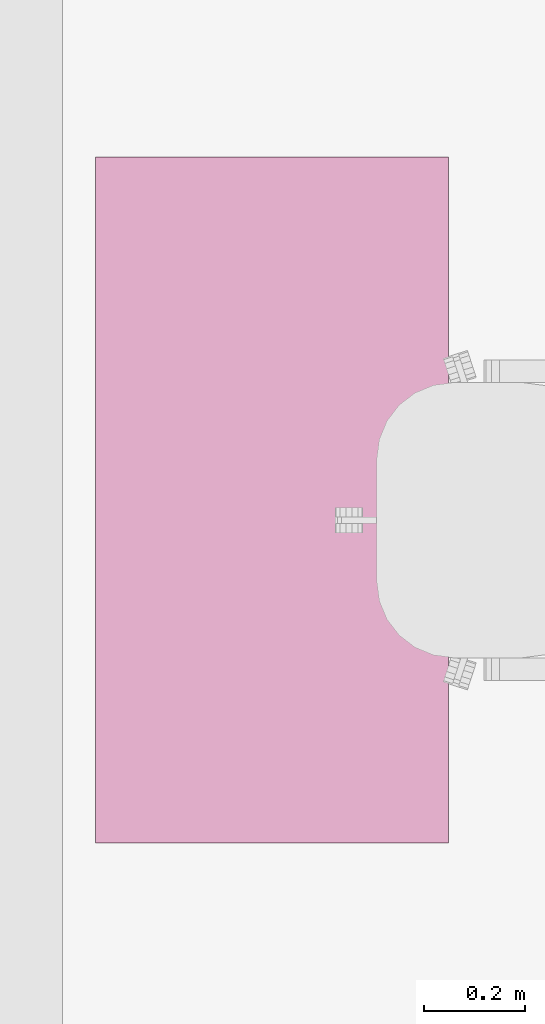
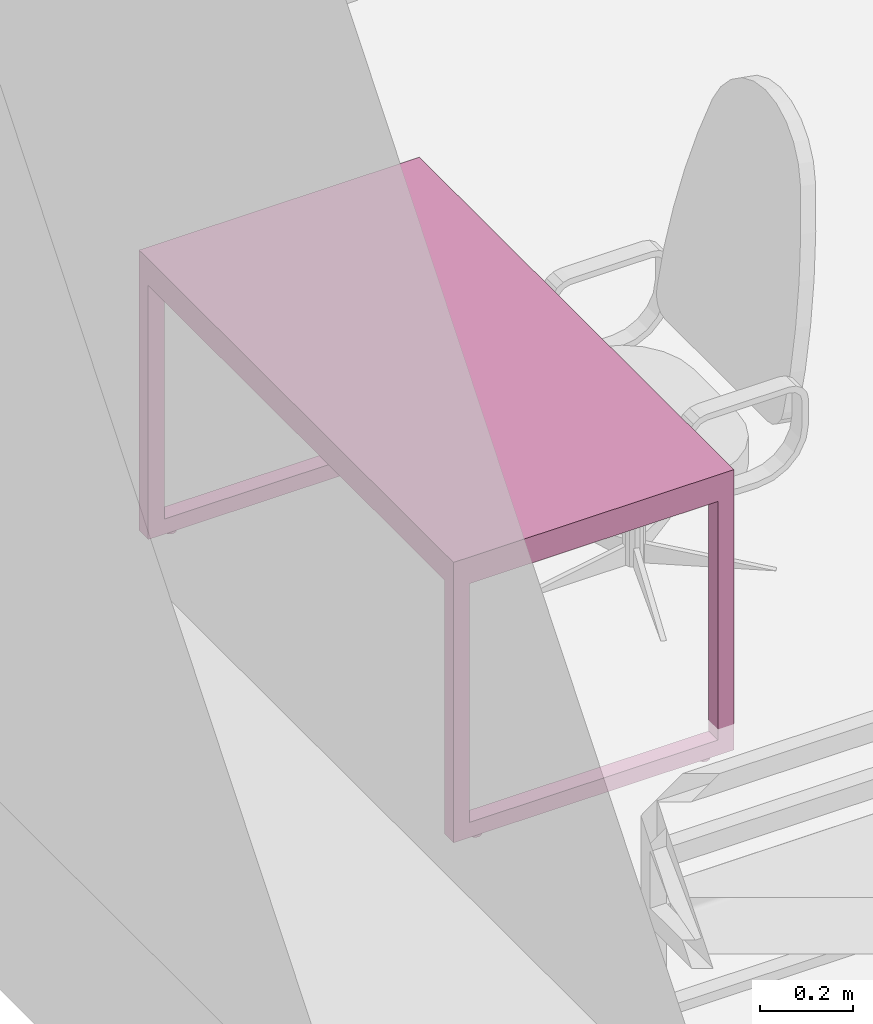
# One storey, part 28 of 46: 1 furnishing.
"""IFC2X3 building model written with IfcOpenShell, lengths in millimetres."""

from ifc_helpers import new_model, entity, si_unit, converted_unit, derived_unit, direction, frame, origin, place, context, subcontext, project, spatial, faceted_brep, source, transform, mapped, material, material_list, type_object, type_shapes, element, save


model = new_model("IFC2X3")

# Units and contexts
model_context = context("Model", 3, precision=0.01, world=origin(), true_north=direction((6.12303176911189e-17, 1.0)))
body_context = subcontext(model_context, "Body", "Model", "MODEL_VIEW")
ifc_project = project(units=[si_unit("LENGTHUNIT", "METRE", prefix="MILLI"), si_unit("AREAUNIT", "SQUARE_METRE"), si_unit("VOLUMEUNIT", "CUBIC_METRE"), converted_unit("PLANEANGLEUNIT", "DEGREE", entity("IfcRatioMeasure", 0.0174532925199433), si_unit("PLANEANGLEUNIT", "RADIAN"), dimensions=[0, 0, 0, 0, 0, 0, 0]), si_unit("MASSUNIT", "GRAM", prefix="KILO"), derived_unit("MASSDENSITYUNIT", [(si_unit("MASSUNIT", "GRAM", prefix="KILO"), 1), (si_unit("LENGTHUNIT", "METRE"), -3)]), si_unit("TIMEUNIT", "SECOND"), si_unit("FREQUENCYUNIT", "HERTZ"), si_unit("THERMODYNAMICTEMPERATUREUNIT", "DEGREE_CELSIUS"), derived_unit("THERMALTRANSMITTANCEUNIT", [(si_unit("MASSUNIT", "GRAM", prefix="KILO"), 1), (si_unit("THERMODYNAMICTEMPERATUREUNIT", "KELVIN"), -1), (si_unit("TIMEUNIT", "SECOND"), -3)]), derived_unit("VOLUMETRICFLOWRATEUNIT", [(si_unit("LENGTHUNIT", "METRE"), 3), (si_unit("TIMEUNIT", "SECOND"), -1)]), si_unit("ELECTRICCURRENTUNIT", "AMPERE"), si_unit("ELECTRICVOLTAGEUNIT", "VOLT"), si_unit("POWERUNIT", "WATT"), si_unit("FORCEUNIT", "NEWTON", prefix="KILO"), si_unit("ILLUMINANCEUNIT", "LUX"), si_unit("LUMINOUSFLUXUNIT", "LUMEN"), si_unit("LUMINOUSINTENSITYUNIT", "CANDELA"), derived_unit("USERDEFINED", [(si_unit("MASSUNIT", "GRAM", prefix="KILO"), -1), (si_unit("LENGTHUNIT", "METRE"), -2), (si_unit("TIMEUNIT", "SECOND"), 3), (si_unit("LUMINOUSFLUXUNIT", "LUMEN"), 1)]), derived_unit("LINEARVELOCITYUNIT", [(si_unit("LENGTHUNIT", "METRE"), 1), (si_unit("TIMEUNIT", "SECOND"), -1)]), si_unit("PRESSUREUNIT", "PASCAL"), derived_unit("USERDEFINED", [(si_unit("LENGTHUNIT", "METRE"), -2), (si_unit("MASSUNIT", "GRAM", prefix="KILO"), 1), (si_unit("TIMEUNIT", "SECOND"), -2)]), derived_unit("LINEARFORCEUNIT", [(si_unit("MASSUNIT", "GRAM", prefix="KILO"), 1), (si_unit("LENGTHUNIT", "METRE"), 1), (si_unit("TIMEUNIT", "SECOND"), -2), (si_unit("LENGTHUNIT", "METRE"), -1)]), derived_unit("PLANARFORCEUNIT", [(si_unit("MASSUNIT", "GRAM", prefix="KILO"), 1), (si_unit("LENGTHUNIT", "METRE"), 1), (si_unit("TIMEUNIT", "SECOND"), -2), (si_unit("LENGTHUNIT", "METRE"), -2)])], contexts=[model_context])

# Site, building, storey, space
site_placement = place(None, origin())
site = spatial("IfcSite", under=ifc_project, at=site_placement, Name="Default", CompositionType="ELEMENT")
building_placement = place(site_placement, origin())
building = spatial("IfcBuilding", under=site, at=building_placement, Name="SMA ARH", CompositionType="ELEMENT")
storey_placement = place(building_placement, origin())
storey = spatial("IfcBuildingStorey", under=building, at=storey_placement, Name="1 Korrus", CompositionType="ELEMENT", Elevation=0.0)
space_placement = place(storey_placement, origin())
space = spatial("IfcSpace", under=storey, at=space_placement, Name="1-15", CompositionType="ELEMENT", InteriorOrExteriorSpace="INTERNAL")

# Furnishing
ifc_material = material(Name="<Unnamed>")
ifc_material_list = material_list([ifc_material, ifc_material])
furniture_type = type_object("IfcFurnitureType", Name="kirjutuslaud 1360x700mm:kirjutuslaud 1360x700mm", material=ifc_material_list)
shared_shape = source(origin(), body_context, "Body", "Brep", [
    faceted_brep([(680.0, -350.0, 720.0), (680.0, 350.0, 720.0), (680.0, 350.0, 750.0), (680.0, -350.0, 750.0), (-680.0, -350.0, 720.0), (-680.0, -350.0, 750.0), (-680.0, 350.0, 750.0), (-680.0, 350.0, 720.0)], [[[0, 1, 2, 3]], [[4, 5, 6, 7]], [[1, 0, 4, 7]], [[2, 1, 7, 6]], [[3, 2, 6, 5]], [[0, 3, 5, 4]]]),
    faceted_brep([(-640.0, -310.0, 680.0), (-640.0, 310.0, 680.0), (-640.0, 310.0, 720.0), (-640.0, -310.0, 720.0), (-680.0, -350.0, 720.0), (-680.0, 350.0, 720.0), (-680.0, 350.0, 10.0), (-680.0, -350.0, 10.0), (-680.0, 310.0, 680.0), (-680.0, -310.0, 680.0), (-680.0, -310.0, 50.0), (-680.0, 310.0, 50.0), (-640.0, -350.0, 10.0), (-640.0, -350.0, 680.0), (640.0, -350.0, 680.0), (640.0, -350.0, 10.0), (680.0, -350.0, 10.0), (680.0, -350.0, 720.0), (-640.0, 350.0, 10.0), (680.0, 350.0, 720.0), (680.0, 350.0, 10.0), (640.0, 350.0, 10.0), (640.0, 350.0, 680.0), (-640.0, 350.0, 680.0), (640.0, 310.0, 720.0), (640.0, -310.0, 720.0), (-640.0, 310.0, 50.0), (-640.0, -310.0, 50.0), (640.0, -310.0, 680.0), (640.0, 310.0, 680.0), (680.0, 310.0, 680.0), (680.0, 310.0, 50.0), (680.0, -310.0, 50.0), (680.0, -310.0, 680.0), (640.0, -310.0, 50.0), (640.0, 310.0, 50.0)], [[[0, 1, 2, 3]], [[4, 5, 6, 7], [8, 9, 10, 11]], [[4, 7, 12, 13, 14, 15, 16, 17]], [[18, 12, 7, 6]], [[6, 5, 19, 20, 21, 22, 23, 18]], [[19, 5, 4, 17], [2, 24, 25, 3]], [[26, 1, 8, 11]], [[27, 26, 11, 10]], [[0, 27, 10, 9]], [[1, 0, 9, 8]], [[14, 13, 0, 28]], [[24, 2, 1, 29]], [[3, 25, 28, 0]], [[17, 16, 20, 19], [30, 31, 32, 33]], [[21, 15, 14, 28, 34, 35, 29, 22]], [[20, 16, 15, 21]], [[31, 30, 29, 35]], [[32, 31, 35, 34]], [[33, 32, 34, 28]], [[30, 33, 28, 29]], [[29, 28, 25, 24]], [[29, 1, 23, 22]], [[12, 18, 23, 1, 26, 27, 0, 13]]]),
    faceted_brep([(-663.729456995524, -270.466136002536, 0.0), (-659.847171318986, -269.955023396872, 0.0), (-655.964885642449, -270.466136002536, 0.0), (-652.347171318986, -271.964642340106, 0.0), (-649.240569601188, -274.348421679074, 0.0), (-646.85679026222, -277.455023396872, 0.0), (-645.35828392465, -281.072737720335, 0.0), (-644.847171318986, -284.955023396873, 0.0), (-645.35828392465, -288.83730907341, 0.0), (-646.85679026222, -292.455023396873, 0.0), (-649.240569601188, -295.561625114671, 0.0), (-652.347171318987, -297.945404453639, 0.0), (-655.964885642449, -299.443910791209, 0.0), (-659.847171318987, -299.955023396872, 0.0), (-663.729456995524, -299.443910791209, 0.0), (-667.347171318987, -297.945404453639, 0.0), (-670.453773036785, -295.561625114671, 0.0), (-672.837552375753, -292.455023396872, 0.0), (-674.336058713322, -288.83730907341, 0.0), (-674.847171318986, -284.955023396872, 0.0), (-674.336058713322, -281.072737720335, 0.0), (-672.837552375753, -277.455023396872, 0.0), (-670.453773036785, -274.348421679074, 0.0), (-667.347171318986, -271.964642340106, 0.0), (-655.964885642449, -299.443910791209, 10.0), (-652.347171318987, -297.945404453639, 10.0), (-649.240569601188, -295.561625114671, 10.0), (-646.85679026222, -292.455023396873, 10.0), (-645.35828392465, -288.83730907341, 10.0), (-644.847171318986, -284.955023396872, 10.0), (-645.35828392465, -281.072737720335, 10.0), (-646.85679026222, -277.455023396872, 10.0), (-649.240569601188, -274.348421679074, 10.0), (-652.347171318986, -271.964642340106, 10.0), (-655.964885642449, -270.466136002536, 10.0), (-659.847171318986, -269.955023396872, 10.0), (-663.729456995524, -270.466136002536, 10.0), (-667.347171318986, -271.964642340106, 10.0), (-670.453773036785, -274.348421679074, 10.0), (-672.837552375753, -277.455023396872, 10.0), (-674.336058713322, -281.072737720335, 10.0), (-674.847171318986, -284.955023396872, 10.0), (-674.336058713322, -288.83730907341, 10.0), (-672.837552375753, -292.455023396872, 10.0), (-670.453773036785, -295.561625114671, 10.0), (-667.347171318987, -297.945404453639, 10.0), (-663.729456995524, -299.443910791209, 10.0), (-659.847171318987, -299.955023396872, 10.0)], [[[0, 1, 2, 3, 4, 5, 6, 7, 8, 9, 10, 11, 12, 13, 14, 15, 16, 17, 18, 19, 20, 21, 22, 23]], [[24, 25, 26, 27, 28, 29, 30, 31, 32, 33, 34, 35, 36, 37, 38, 39, 40, 41, 42, 43, 44, 45, 46, 47]], [[18, 42, 41, 19]], [[17, 43, 42, 18]], [[45, 44, 16, 15]], [[17, 16, 44, 43]], [[46, 45, 15, 14]], [[47, 46, 14, 13]], [[12, 24, 47, 13]], [[11, 25, 24, 12]], [[27, 26, 10, 9]], [[11, 10, 26, 25]], [[28, 27, 9, 8]], [[29, 28, 8, 7]], [[6, 30, 29, 7]], [[5, 31, 30, 6]], [[33, 32, 4, 3]], [[5, 4, 32, 31]], [[34, 33, 3, 2]], [[35, 34, 2, 1]], [[0, 36, 35, 1]], [[23, 37, 36, 0]], [[39, 38, 22, 21]], [[23, 22, 38, 37]], [[40, 39, 21, 20]], [[41, 40, 20, 19]]]),
    faceted_brep([(-655.964885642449, 270.466136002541, 10.0), (-652.347171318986, 271.964642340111, 10.0), (-649.240569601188, 274.348421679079, 10.0), (-646.85679026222, 277.455023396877, 10.0), (-645.35828392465, 281.07273772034, 10.0), (-644.847171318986, 284.955023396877, 10.0), (-645.35828392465, 288.837309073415, 10.0), (-646.85679026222, 292.455023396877, 10.0), (-649.240569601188, 295.561625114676, 10.0), (-652.347171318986, 297.945404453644, 10.0), (-655.964885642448, 299.443910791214, 10.0), (-659.847171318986, 299.955023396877, 10.0), (-663.729456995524, 299.443910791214, 10.0), (-667.347171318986, 297.945404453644, 10.0), (-670.453773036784, 295.561625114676, 10.0), (-672.837552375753, 292.455023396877, 10.0), (-674.336058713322, 288.837309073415, 10.0), (-674.847171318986, 284.955023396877, 10.0), (-674.336058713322, 281.07273772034, 10.0), (-672.837552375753, 277.455023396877, 10.0), (-670.453773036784, 274.348421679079, 10.0), (-667.347171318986, 271.964642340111, 10.0), (-663.729456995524, 270.466136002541, 10.0), (-659.847171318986, 269.955023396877, 10.0), (-655.964885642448, 299.443910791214, 0.0), (-652.347171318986, 297.945404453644, 0.0), (-649.240569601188, 295.561625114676, 0.0), (-646.85679026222, 292.455023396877, 0.0), (-645.35828392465, 288.837309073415, 0.0), (-644.847171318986, 284.955023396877, 0.0), (-645.35828392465, 281.07273772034, 0.0), (-646.85679026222, 277.455023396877, 0.0), (-649.240569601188, 274.348421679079, 0.0), (-652.347171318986, 271.964642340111, 0.0), (-655.964885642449, 270.466136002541, 0.0), (-659.847171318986, 269.955023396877, 0.0), (-663.729456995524, 270.466136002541, 0.0), (-667.347171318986, 271.964642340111, 0.0), (-670.453773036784, 274.348421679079, 0.0), (-672.837552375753, 277.455023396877, 0.0), (-674.336058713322, 281.07273772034, 0.0), (-674.847171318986, 284.955023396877, 0.0), (-674.336058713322, 288.837309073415, 0.0), (-672.837552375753, 292.455023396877, 0.0), (-670.453773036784, 295.561625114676, 0.0), (-667.347171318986, 297.945404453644, 0.0), (-663.729456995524, 299.443910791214, 0.0), (-659.847171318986, 299.955023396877, 0.0)], [[[0, 1, 2, 3, 4, 5, 6, 7, 8, 9, 10, 11, 12, 13, 14, 15, 16, 17, 18, 19, 20, 21, 22, 23]], [[24, 25, 26, 27, 28, 29, 30, 31, 32, 33, 34, 35, 36, 37, 38, 39, 40, 41, 42, 43, 44, 45, 46, 47]], [[40, 18, 17, 41]], [[39, 19, 18, 40]], [[21, 20, 38, 37]], [[39, 38, 20, 19]], [[22, 21, 37, 36]], [[23, 22, 36, 35]], [[34, 0, 23, 35]], [[33, 1, 0, 34]], [[3, 2, 32, 31]], [[33, 32, 2, 1]], [[4, 3, 31, 30]], [[5, 4, 30, 29]], [[28, 6, 5, 29]], [[27, 7, 6, 28]], [[9, 8, 26, 25]], [[27, 26, 8, 7]], [[10, 9, 25, 24]], [[11, 10, 24, 47]], [[46, 12, 11, 47]], [[45, 13, 12, 46]], [[15, 14, 44, 43]], [[45, 44, 14, 13]], [[16, 15, 43, 42]], [[17, 16, 42, 41]]]),
    faceted_brep([(656.270543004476, -270.466136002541, 0.0), (660.152828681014, -269.955023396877, 0.0), (664.035114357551, -270.466136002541, 0.0), (667.652828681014, -271.96464234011, 0.0), (670.759430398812, -274.348421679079, 0.0), (673.14320973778, -277.455023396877, 0.0), (674.64171607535, -281.072737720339, 0.0), (675.152828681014, -284.955023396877, 0.0), (674.64171607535, -288.837309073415, 0.0), (673.14320973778, -292.455023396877, 0.0), (670.759430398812, -295.561625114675, 0.0), (667.652828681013, -297.945404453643, 0.0), (664.035114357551, -299.443910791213, 0.0), (660.152828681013, -299.955023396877, 0.0), (656.270543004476, -299.443910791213, 0.0), (652.652828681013, -297.945404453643, 0.0), (649.546226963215, -295.561625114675, 0.0), (647.162447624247, -292.455023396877, 0.0), (645.663941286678, -288.837309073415, 0.0), (645.152828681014, -284.955023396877, 0.0), (645.663941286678, -281.072737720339, 0.0), (647.162447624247, -277.455023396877, 0.0), (649.546226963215, -274.348421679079, 0.0), (652.652828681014, -271.96464234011, 0.0), (664.035114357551, -299.443910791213, 10.0), (667.652828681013, -297.945404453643, 10.0), (670.759430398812, -295.561625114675, 10.0), (673.14320973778, -292.455023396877, 10.0), (674.64171607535, -288.837309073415, 10.0), (675.152828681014, -284.955023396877, 10.0), (674.64171607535, -281.072737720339, 10.0), (673.14320973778, -277.455023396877, 10.0), (670.759430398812, -274.348421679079, 10.0), (667.652828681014, -271.96464234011, 10.0), (664.035114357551, -270.466136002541, 10.0), (660.152828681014, -269.955023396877, 10.0), (656.270543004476, -270.466136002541, 10.0), (652.652828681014, -271.96464234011, 10.0), (649.546226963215, -274.348421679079, 10.0), (647.162447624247, -277.455023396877, 10.0), (645.663941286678, -281.072737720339, 10.0), (645.152828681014, -284.955023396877, 10.0), (645.663941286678, -288.837309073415, 10.0), (647.162447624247, -292.455023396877, 10.0), (649.546226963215, -295.561625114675, 10.0), (652.652828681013, -297.945404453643, 10.0), (656.270543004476, -299.443910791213, 10.0), (660.152828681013, -299.955023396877, 10.0)], [[[0, 1, 2, 3, 4, 5, 6, 7, 8, 9, 10, 11, 12, 13, 14, 15, 16, 17, 18, 19, 20, 21, 22, 23]], [[24, 25, 26, 27, 28, 29, 30, 31, 32, 33, 34, 35, 36, 37, 38, 39, 40, 41, 42, 43, 44, 45, 46, 47]], [[18, 42, 41, 19]], [[17, 43, 42, 18]], [[45, 44, 16, 15]], [[17, 16, 44, 43]], [[46, 45, 15, 14]], [[47, 46, 14, 13]], [[12, 24, 47, 13]], [[11, 25, 24, 12]], [[27, 26, 10, 9]], [[11, 10, 26, 25]], [[28, 27, 9, 8]], [[29, 28, 8, 7]], [[6, 30, 29, 7]], [[5, 31, 30, 6]], [[33, 32, 4, 3]], [[5, 4, 32, 31]], [[34, 33, 3, 2]], [[35, 34, 2, 1]], [[0, 36, 35, 1]], [[23, 37, 36, 0]], [[39, 38, 22, 21]], [[23, 22, 38, 37]], [[40, 39, 21, 20]], [[41, 40, 20, 19]]]),
    faceted_brep([(664.035114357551, 270.466136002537, 10.0), (667.652828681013, 271.964642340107, 10.0), (670.759430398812, 274.348421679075, 10.0), (673.14320973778, 277.455023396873, 10.0), (674.64171607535, 281.072737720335, 10.0), (675.152828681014, 284.955023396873, 10.0), (674.64171607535, 288.837309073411, 10.0), (673.14320973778, 292.455023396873, 10.0), (670.759430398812, 295.561625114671, 10.0), (667.652828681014, 297.94540445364, 10.0), (664.035114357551, 299.443910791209, 10.0), (660.152828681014, 299.955023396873, 10.0), (656.270543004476, 299.443910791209, 10.0), (652.652828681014, 297.94540445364, 10.0), (649.546226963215, 295.561625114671, 10.0), (647.162447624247, 292.455023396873, 10.0), (645.663941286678, 288.837309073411, 10.0), (645.152828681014, 284.955023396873, 10.0), (645.663941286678, 281.072737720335, 10.0), (647.162447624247, 277.455023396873, 10.0), (649.546226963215, 274.348421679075, 10.0), (652.652828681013, 271.964642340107, 10.0), (656.270543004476, 270.466136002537, 10.0), (660.152828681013, 269.955023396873, 10.0), (664.035114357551, 299.443910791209, 0.0), (667.652828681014, 297.94540445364, 0.0), (670.759430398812, 295.561625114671, 0.0), (673.14320973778, 292.455023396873, 0.0), (674.64171607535, 288.837309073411, 0.0), (675.152828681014, 284.955023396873, 0.0), (674.64171607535, 281.072737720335, 0.0), (673.14320973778, 277.455023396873, 0.0), (670.759430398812, 274.348421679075, 0.0), (667.652828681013, 271.964642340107, 0.0), (664.035114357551, 270.466136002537, 0.0), (660.152828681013, 269.955023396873, 0.0), (656.270543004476, 270.466136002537, 0.0), (652.652828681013, 271.964642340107, 0.0), (649.546226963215, 274.348421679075, 0.0), (647.162447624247, 277.455023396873, 0.0), (645.663941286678, 281.072737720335, 0.0), (645.152828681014, 284.955023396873, 0.0), (645.663941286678, 288.837309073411, 0.0), (647.162447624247, 292.455023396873, 0.0), (649.546226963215, 295.561625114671, 0.0), (652.652828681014, 297.94540445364, 0.0), (656.270543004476, 299.443910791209, 0.0), (660.152828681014, 299.955023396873, 0.0)], [[[0, 1, 2, 3, 4, 5, 6, 7, 8, 9, 10, 11, 12, 13, 14, 15, 16, 17, 18, 19, 20, 21, 22, 23]], [[24, 25, 26, 27, 28, 29, 30, 31, 32, 33, 34, 35, 36, 37, 38, 39, 40, 41, 42, 43, 44, 45, 46, 47]], [[40, 18, 17, 41]], [[39, 19, 18, 40]], [[21, 20, 38, 37]], [[39, 38, 20, 19]], [[22, 21, 37, 36]], [[23, 22, 36, 35]], [[34, 0, 23, 35]], [[33, 1, 0, 34]], [[3, 2, 32, 31]], [[33, 32, 2, 1]], [[4, 3, 31, 30]], [[5, 4, 30, 29]], [[28, 6, 5, 29]], [[27, 7, 6, 28]], [[9, 8, 26, 25]], [[27, 26, 8, 7]], [[10, 9, 25, 24]], [[11, 10, 24, 47]], [[46, 12, 11, 47]], [[45, 13, 12, 46]], [[15, 14, 44, 43]], [[45, 44, 14, 13]], [[16, 15, 43, 42]], [[17, 16, 42, 41]]]),
])
type_shapes(furniture_type, [shared_shape])
furnishing_placement = place(space_placement, frame((415.923761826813, 3921.8985721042, 0.0), z_axis=(0.0, 0.0, 1.0), x_axis=(0.0, -1.0, 0.0)))
element("IfcFurnishingElement", 1, at=furnishing_placement, inside=space, type_object=furniture_type, Name="kirjutuslaud 1360x700mm:kirjutuslaud 1360x700mm", ObjectType="kirjutuslaud 1360x700mm:kirjutuslaud 1360x700mm", context=body_context, shape_type="MappedRepresentation", body=[
    mapped(shared_shape, transform((0.0, 0.0, 0.0), scale=1.0)),
])

save(model, "model.ifc")
